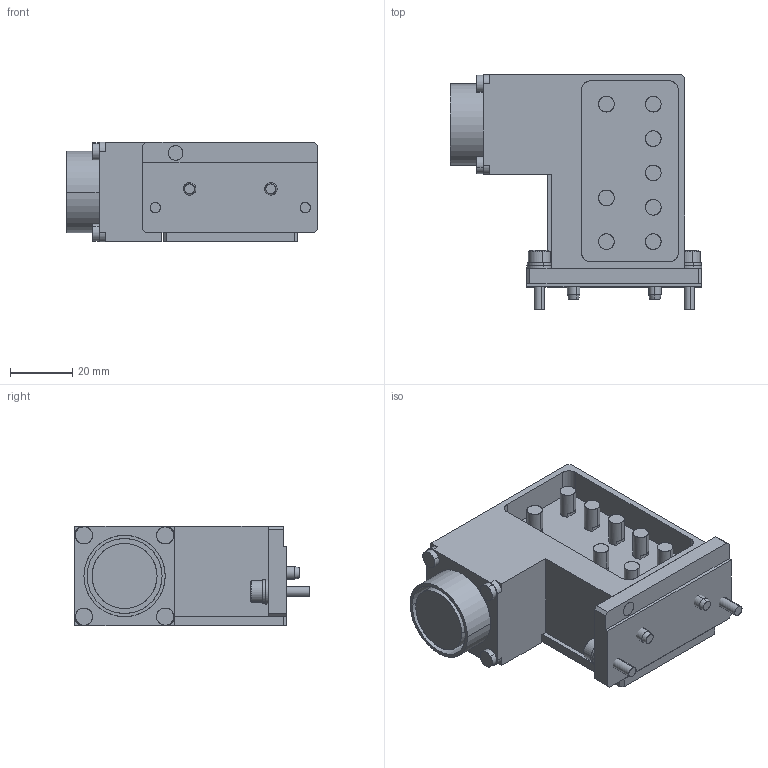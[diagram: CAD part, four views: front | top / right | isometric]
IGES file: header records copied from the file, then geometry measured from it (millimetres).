
Start section: SolidWorks IGES file using analytic representation for surfaces
Bounding box: 80.5 x 75.2 x 32 mm (x, y, z)
Surface area: 31574.4 mm2 (no closed solid volume)
Topology: 0 solids, 0 shells, 193 faces, 2582 edges, 2578 vertices
Faces by surface type: bspline 112, revolution 81
